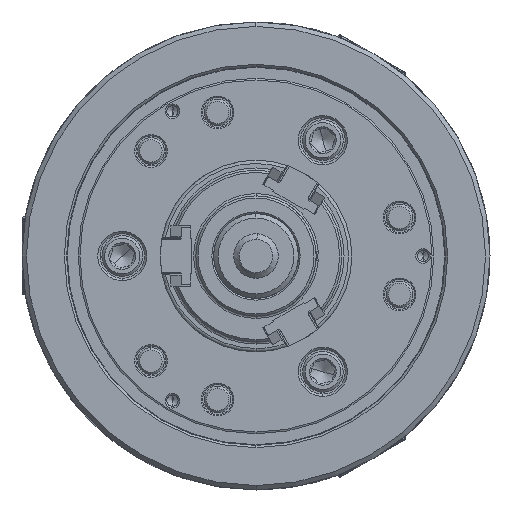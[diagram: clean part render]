
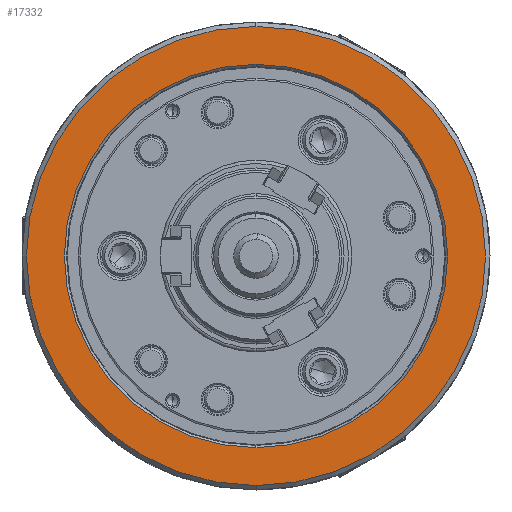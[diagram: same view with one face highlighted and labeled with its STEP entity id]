
A CAD part, left-side view. The second image highlights one B-rep face of the part: STEP entity #17332.
In plain terms, the highlighted planar face has unit normal (-1, 0, 0).
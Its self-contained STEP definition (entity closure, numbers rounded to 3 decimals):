
#1539 = CIRCLE ( 'NONE', #63146, 103. ) ;
#9030 = CARTESIAN_POINT ( 'NONE',  ( -85., 0., 103. ) ) ;
#12365 = PLANE ( 'NONE',  #36041 ) ;
#12887 = CARTESIAN_POINT ( 'NONE',  ( -85., 0., 0. ) ) ;
#15201 = DIRECTION ( 'NONE',  ( 0., 0., -1. ) ) ;
#17332 = ADVANCED_FACE ( 'NONE', ( #96091, #81257 ), #12365, .F. ) ;
#19664 = ORIENTED_EDGE ( 'NONE', *, *, #21158, .F. ) ;
#20593 = DIRECTION ( 'NONE',  ( 0., 0., -1. ) ) ;
#21158 = EDGE_CURVE ( 'NONE', #50157, #75383, #36496, .T. ) ;
#31091 = EDGE_CURVE ( 'NONE', #75383, #50157, #1539, .T. ) ;
#34255 = EDGE_LOOP ( 'NONE', ( #81889, #52221 ) ) ;
#36041 = AXIS2_PLACEMENT_3D ( 'NONE', #38220, #79621, #20593 ) ;
#36496 = CIRCLE ( 'NONE', #96350, 103. ) ;
#38220 = CARTESIAN_POINT ( 'NONE',  ( -85., -103., 0. ) ) ;
#45018 = DIRECTION ( 'NONE',  ( 0., 0., -1. ) ) ;
#50157 = VERTEX_POINT ( 'NONE', #76014 ) ;
#50764 = CARTESIAN_POINT ( 'NONE',  ( -85., 0., 86. ) ) ;
#52221 = ORIENTED_EDGE ( 'NONE', *, *, #62391, .T. ) ;
#53872 = CARTESIAN_POINT ( 'NONE',  ( -85., 0., 0. ) ) ;
#55337 = DIRECTION ( 'NONE',  ( 0., 0., -1. ) ) ;
#58187 = EDGE_LOOP ( 'NONE', ( #19664, #63851 ) ) ;
#62391 = EDGE_CURVE ( 'NONE', #77590, #106786, #71179, .T. ) ;
#63146 = AXIS2_PLACEMENT_3D ( 'NONE', #107018, #66828, #100372 ) ;
#63851 = ORIENTED_EDGE ( 'NONE', *, *, #31091, .F. ) ;
#64713 = DIRECTION ( 'NONE',  ( 1., 0., 0. ) ) ;
#66828 = DIRECTION ( 'NONE',  ( 1., 0., 0. ) ) ;
#71179 = CIRCLE ( 'NONE', #74723, 86. ) ;
#73533 = EDGE_CURVE ( 'NONE', #106786, #77590, #97768, .T. ) ;
#74712 = DIRECTION ( 'NONE',  ( 1., 0., 0. ) ) ;
#74723 = AXIS2_PLACEMENT_3D ( 'NONE', #12887, #64713, #55337 ) ;
#75383 = VERTEX_POINT ( 'NONE', #9030 ) ;
#76014 = CARTESIAN_POINT ( 'NONE',  ( -85., 0., -103. ) ) ;
#77590 = VERTEX_POINT ( 'NONE', #81230 ) ;
#79621 = DIRECTION ( 'NONE',  ( 1., 0., 0. ) ) ;
#81230 = CARTESIAN_POINT ( 'NONE',  ( -85., 0., -86. ) ) ;
#81257 = FACE_BOUND ( 'NONE', #34255, .T. ) ;
#81889 = ORIENTED_EDGE ( 'NONE', *, *, #73533, .T. ) ;
#96091 = FACE_OUTER_BOUND ( 'NONE', #58187, .T. ) ;
#96350 = AXIS2_PLACEMENT_3D ( 'NONE', #99483, #74712, #15201 ) ;
#97768 = CIRCLE ( 'NONE', #101328, 86. ) ;
#99483 = CARTESIAN_POINT ( 'NONE',  ( -85., 0., 0. ) ) ;
#100372 = DIRECTION ( 'NONE',  ( 0., 0., -1. ) ) ;
#101328 = AXIS2_PLACEMENT_3D ( 'NONE', #53872, #102317, #45018 ) ;
#102317 = DIRECTION ( 'NONE',  ( 1., 0., 0. ) ) ;
#106786 = VERTEX_POINT ( 'NONE', #50764 ) ;
#107018 = CARTESIAN_POINT ( 'NONE',  ( -85., 0., 0. ) ) ;
